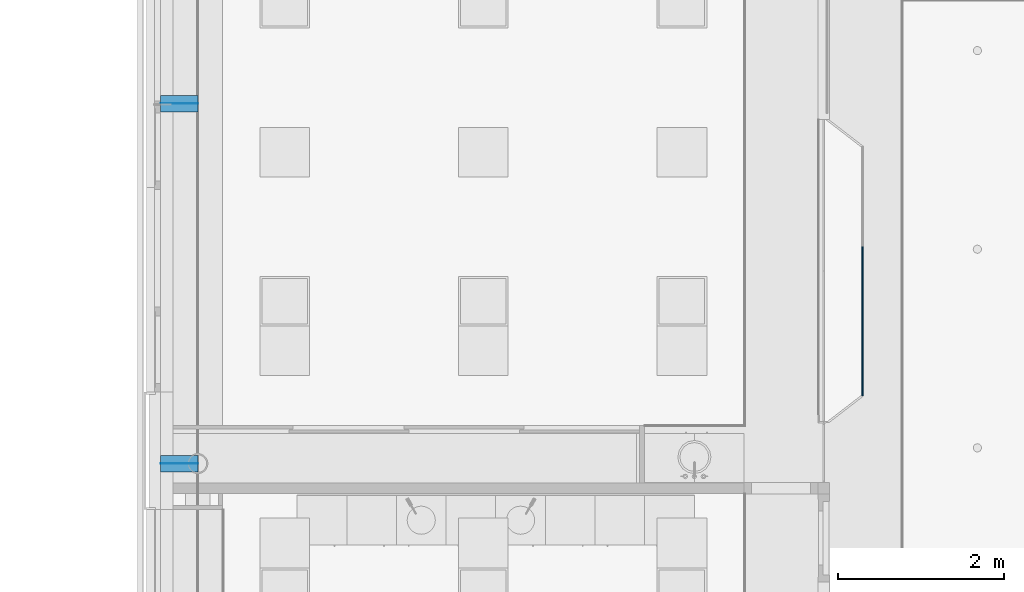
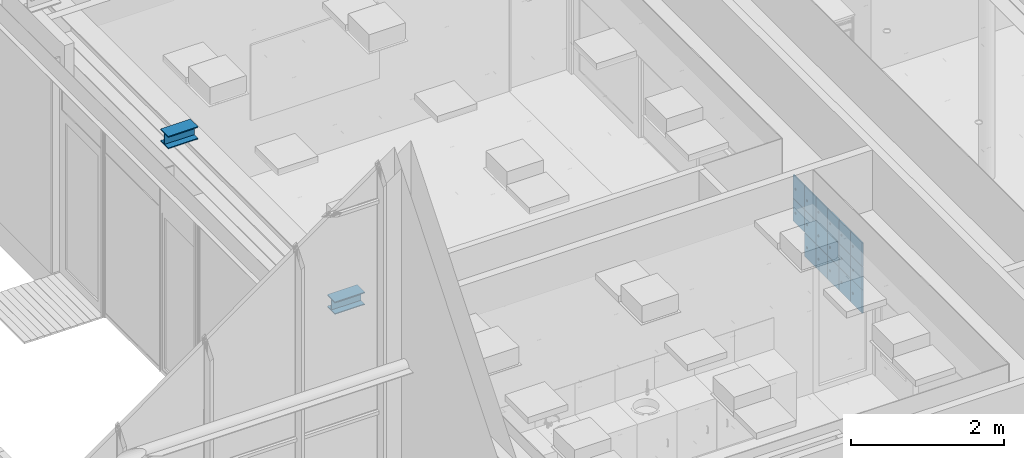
# One storey, part 130 of 347: 23 building element parts, 3 elements without a shape of their own.
"""IFC2X3 building model written with IfcOpenShell, lengths in millimetres."""

from ifc_helpers import new_model, entity, si_unit, converted_unit, derived_unit, money_unit, direction, frame, origin_with_axes, place, context, subcontext, project, spatial, faceted_brep, material, type_object, element, aggregate, save


model = new_model("IFC2X3")

# Units and contexts
model_context = context("Model", 3, precision=0.01, world=origin_with_axes(), true_north=direction((0.0, 1.0)))
plan_context = context("Plan", 3, precision=0.01, world=origin_with_axes(), true_north=direction((0.0, 1.0)))
body_context = subcontext(model_context, "Body", "Model", "MODEL_VIEW")
ifc_project = project(units=[si_unit("LENGTHUNIT", "METRE", prefix="MILLI"), si_unit("AREAUNIT", "SQUARE_METRE"), si_unit("VOLUMEUNIT", "CUBIC_METRE"), converted_unit("PLANEANGLEUNIT", "DEGREE", entity("IfcPlaneAngleMeasure", 0.0174532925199), si_unit("PLANEANGLEUNIT", "RADIAN"), dimensions=[0, 0, 0, 0, 0, 0, 0]), money_unit("EUR"), converted_unit("TIMEUNIT", "Year", entity("IfcTimeMeasure", 31556926.0), si_unit("TIMEUNIT", "SECOND"), dimensions=[0, 0, 1, 0, 0, 0, 0]), si_unit("MASSUNIT", "GRAM", prefix="KILO"), si_unit("THERMODYNAMICTEMPERATUREUNIT", "DEGREE_CELSIUS"), si_unit("LUMINOUSINTENSITYUNIT", "LUMEN"), si_unit("ENERGYUNIT", "JOULE", prefix="MEGA"), derived_unit("THERMALCONDUCTANCEUNIT", [(si_unit("POWERUNIT", "WATT"), 1), (si_unit("LENGTHUNIT", "METRE"), -1), (si_unit("THERMODYNAMICTEMPERATUREUNIT", "KELVIN"), -1)]), derived_unit("SPECIFICHEATCAPACITYUNIT", [(si_unit("ENERGYUNIT", "JOULE"), 1), (si_unit("MASSUNIT", "GRAM", prefix="KILO"), -1), (si_unit("THERMODYNAMICTEMPERATUREUNIT", "KELVIN"), -1)]), derived_unit("MASSDENSITYUNIT", [(si_unit("MASSUNIT", "GRAM", prefix="KILO"), 1), (si_unit("VOLUMEUNIT", "CUBIC_METRE"), -1)])], contexts=[model_context, plan_context])

# Site, building, storey
site_placement = place(None, origin_with_axes())
site = spatial("IfcSite", under=ifc_project, at=site_placement, Name="Site", CompositionType="ELEMENT")
building_placement = place(site_placement, origin_with_axes())
building = spatial("IfcBuilding", under=site, at=building_placement, Name="Naam gebouw", CompositionType="ELEMENT")
storey_placement = place(building_placement, origin_with_axes())
storey = spatial("IfcBuildingStorey", under=building, at=storey_placement, Name="begane grond", CompositionType="ELEMENT", Elevation=0.0)

# Beam, building element parts
beam_type_1 = type_object("IfcBeamType", Name="28 HEB200 200 x 200", PredefinedType="BEAM")
beam_1_placement = place(storey_placement, frame((24575.0, 20350.0, 3560.0), z_axis=(0.0, 0.0, 1.0), x_axis=(0.0, 1.0, 0.0)))
beam_1 = element("IfcBeam", 1, at=beam_1_placement, inside=storey, type_object=beam_type_1, Name="28_Balk-x", ObjectType="BEAM")
ifc_material_1 = material(Name="Metaal - Staal C")
building_element_part_1_placement = place(beam_1_placement, origin_with_axes())
building_element_part_1 = element("IfcBuildingElementPart", 2, at=building_element_part_1_placement, material=ifc_material_1, Name="Metaal - Staal C", context=body_context, shape_type="Brep", body=[
    faceted_brep([(-100.0, 450.0, 185.0), (-4.5, 450.0, 185.0), (-4.5, 0.0, 185.0), (-100.0, 0.0, 185.0), (-100.0, 450.0, 200.0), (100.0, 450.0, 200.0), (100.0, 450.0, 185.0), (4.5, 450.0, 185.0), (4.5, 0.0, 185.0), (100.0, 0.0, 185.0), (100.0, 0.0, 200.0), (-100.0, 0.0, 200.0)], [[[0, 1, 2, 3]], [[0, 4, 5, 6, 7, 1]], [[1, 7, 8, 2]], [[3, 2, 8, 9, 10, 11]], [[4, 0, 3, 11]], [[5, 4, 11, 10]], [[6, 5, 10, 9]], [[7, 6, 9, 8]]]),
])
building_element_part_2_placement = place(beam_1_placement, origin_with_axes())
building_element_part_2 = element("IfcBuildingElementPart", 3, at=building_element_part_2_placement, material=ifc_material_1, Name="Metaal - Staal C", context=body_context, shape_type="Brep", body=[
    faceted_brep([(-100.0, 450.0, 15.0), (-100.0, 450.0, 0.0), (-100.0, 0.0, 0.0), (-100.0, 0.0, 15.0), (-4.5, 450.0, 15.0), (4.5, 450.0, 15.0), (100.0, 450.0, 15.0), (100.0, 450.0, 0.0), (100.0, 0.0, 0.0), (100.0, 0.0, 15.0), (4.5, 0.0, 15.0), (-4.5, 0.0, 15.0)], [[[0, 1, 2, 3]], [[0, 4, 5, 6, 7, 1]], [[1, 7, 8, 2]], [[3, 2, 8, 9, 10, 11]], [[4, 0, 3, 11]], [[5, 4, 11, 10]], [[6, 5, 10, 9]], [[7, 6, 9, 8]]]),
])
building_element_part_3_placement = place(beam_1_placement, origin_with_axes())
building_element_part_3 = element("IfcBuildingElementPart", 4, at=building_element_part_3_placement, material=ifc_material_1, Name="Metaal - Staal C", context=body_context, shape_type="Brep", body=[
    faceted_brep([(-4.5, 450.0, 15.0), (4.5, 450.0, 15.0), (4.5, 0.0, 15.0), (-4.5, 0.0, 15.0), (-4.5, 450.0, 185.0), (4.5, 450.0, 185.0), (4.5, 0.0, 185.0), (-4.5, 0.0, 185.0)], [[[0, 1, 2, 3]], [[0, 4, 5, 1]], [[1, 5, 6, 2]], [[3, 2, 6, 7]], [[4, 0, 3, 7]], [[5, 4, 7, 6]]]),
])
aggregate(beam_1, [building_element_part_1, building_element_part_2, building_element_part_3])

beam_type_2 = type_object("IfcBeamType", Name="VI Garderobe 01 3012 x 1122", PredefinedType="BEAM")
beam_2_placement = place(storey_placement, frame((32618.0279766, 24180.5, 0.0), z_axis=(0.0, 0.0, 1.0), x_axis=(0.0, 1.0, 0.0)))
beam_2 = element("IfcBeam", 5, at=beam_2_placement, inside=storey, type_object=beam_type_2, Name="28_Balk-x", ObjectType="BEAM")
ifc_material_2 = material(Name="Hout - Lockers")
building_element_part_4_placement = place(beam_2_placement, origin_with_axes())
building_element_part_4 = element("IfcBuildingElementPart", 6, at=building_element_part_4_placement, material=ifc_material_2, Name="Hout - Lockers", context=body_context, shape_type="Brep", body=[
    faceted_brep([(-3012.0, 18.0, 1175.0), (-3012.0, 18.0, 802.0), (-3012.0, 0.0, 802.0), (-3012.0, 0.0, 1175.0), (-2709.0, 18.0, 1175.0), (-2709.0, 18.0, 802.0), (-2783.5623059, 18.0, 985.580134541), (-2787.0, 18.0, 975.0), (-2783.5623059, 18.0, 964.419865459), (-2774.5623059, 18.0, 957.880982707), (-2763.4376941, 18.0, 957.880982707), (-2754.4376941, 18.0, 964.419865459), (-2751.0, 18.0, 975.0), (-2754.4376941, 18.0, 985.580134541), (-2763.4376941, 18.0, 992.119017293), (-2774.5623059, 18.0, 992.119017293), (-2709.0, 0.0, 802.0), (-2709.0, 0.0, 1175.0), (-2783.5623059, 0.0, 985.580134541), (-2774.5623059, 0.0, 992.119017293), (-2763.4376941, 0.0, 992.119017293), (-2754.4376941, 0.0, 985.580134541), (-2751.0, 0.0, 975.0), (-2754.4376941, 0.0, 964.419865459), (-2763.4376941, 0.0, 957.880982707), (-2774.5623059, 0.0, 957.880982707), (-2783.5623059, 0.0, 964.419865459), (-2787.0, 0.0, 975.0)], [[[0, 1, 2, 3]], [[0, 4, 5, 1], [6, 7, 8, 9, 10, 11, 12, 13, 14, 15]], [[1, 5, 16, 2]], [[3, 2, 16, 17], [18, 19, 20, 21, 22, 23, 24, 25, 26, 27]], [[4, 0, 3, 17]], [[5, 4, 17, 16]], [[7, 6, 18, 27]], [[8, 7, 27, 26]], [[9, 8, 26, 25]], [[10, 9, 25, 24]], [[11, 10, 24, 23]], [[12, 11, 23, 22]], [[13, 12, 22, 21]], [[14, 13, 21, 20]], [[15, 14, 20, 19]], [[6, 15, 19, 18]]]),
])
building_element_part_5_placement = place(beam_2_placement, origin_with_axes())
building_element_part_5 = element("IfcBuildingElementPart", 7, at=building_element_part_5_placement, material=ifc_material_2, Name="Hout - Lockers", context=body_context, shape_type="Brep", body=[
    faceted_brep([(-3012.0, 18.0, 796.0), (-3012.0, 18.0, 432.0), (-3012.0, 0.0, 432.0), (-3012.0, 0.0, 796.0), (-2709.0, 18.0, 796.0), (-2709.0, 18.0, 432.0), (-2783.5623059, 18.0, 606.580134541), (-2787.0, 18.0, 596.0), (-2783.5623059, 18.0, 585.419865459), (-2774.5623059, 18.0, 578.880982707), (-2763.4376941, 18.0, 578.880982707), (-2754.4376941, 18.0, 585.419865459), (-2751.0, 18.0, 596.0), (-2754.4376941, 18.0, 606.580134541), (-2763.4376941, 18.0, 613.119017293), (-2774.5623059, 18.0, 613.119017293), (-2709.0, 0.0, 432.0), (-2709.0, 0.0, 796.0), (-2783.5623059, 0.0, 606.580134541), (-2774.5623059, 0.0, 613.119017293), (-2763.4376941, 0.0, 613.119017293), (-2754.4376941, 0.0, 606.580134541), (-2751.0, 0.0, 596.0), (-2754.4376941, 0.0, 585.419865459), (-2763.4376941, 0.0, 578.880982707), (-2774.5623059, 0.0, 578.880982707), (-2783.5623059, 0.0, 585.419865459), (-2787.0, 0.0, 596.0)], [[[0, 1, 2, 3]], [[0, 4, 5, 1], [6, 7, 8, 9, 10, 11, 12, 13, 14, 15]], [[1, 5, 16, 2]], [[3, 2, 16, 17], [18, 19, 20, 21, 22, 23, 24, 25, 26, 27]], [[4, 0, 3, 17]], [[5, 4, 17, 16]], [[7, 6, 18, 27]], [[8, 7, 27, 26]], [[9, 8, 26, 25]], [[10, 9, 25, 24]], [[11, 10, 24, 23]], [[12, 11, 23, 22]], [[13, 12, 22, 21]], [[14, 13, 21, 20]], [[15, 14, 20, 19]], [[6, 15, 19, 18]]]),
])
building_element_part_6_placement = place(beam_2_placement, origin_with_axes())
building_element_part_6 = element("IfcBuildingElementPart", 8, at=building_element_part_6_placement, material=ifc_material_2, Name="Hout - Lockers", context=body_context, shape_type="Brep", body=[
    faceted_brep([(-3012.0, 18.0, 426.0), (-3012.0, 18.0, 53.0), (-3012.0, 0.0, 53.0), (-3012.0, 0.0, 426.0), (-2709.0, 18.0, 426.0), (-2709.0, 18.0, 53.0), (-2782.1615884, 18.0, 236.58994507), (-2785.5992825, 18.0, 226.009810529), (-2782.1615884, 18.0, 215.429675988), (-2773.1615884, 18.0, 208.890793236), (-2762.0369766, 18.0, 208.890793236), (-2753.0369766, 18.0, 215.429675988), (-2749.5992825, 18.0, 226.009810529), (-2753.0369766, 18.0, 236.58994507), (-2762.0369766, 18.0, 243.128827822), (-2773.1615884, 18.0, 243.128827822), (-2709.0, 0.0, 53.0), (-2709.0, 0.0, 426.0), (-2782.1615884, 0.0, 236.58994507), (-2773.1615884, 0.0, 243.128827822), (-2762.0369766, 0.0, 243.128827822), (-2753.0369766, 0.0, 236.58994507), (-2749.5992825, 0.0, 226.009810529), (-2753.0369766, 0.0, 215.429675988), (-2762.0369766, 0.0, 208.890793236), (-2773.1615884, 0.0, 208.890793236), (-2782.1615884, 0.0, 215.429675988), (-2785.5992825, 0.0, 226.009810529)], [[[0, 1, 2, 3]], [[0, 4, 5, 1], [6, 7, 8, 9, 10, 11, 12, 13, 14, 15]], [[1, 5, 16, 2]], [[3, 2, 16, 17], [18, 19, 20, 21, 22, 23, 24, 25, 26, 27]], [[4, 0, 3, 17]], [[5, 4, 17, 16]], [[7, 6, 18, 27]], [[8, 7, 27, 26]], [[9, 8, 26, 25]], [[10, 9, 25, 24]], [[11, 10, 24, 23]], [[12, 11, 23, 22]], [[13, 12, 22, 21]], [[14, 13, 21, 20]], [[15, 14, 20, 19]], [[6, 15, 19, 18]]]),
])
building_element_part_7_placement = place(beam_2_placement, origin_with_axes())
building_element_part_7 = element("IfcBuildingElementPart", 9, at=building_element_part_7_placement, material=ifc_material_2, Name="Hout - Lockers", context=body_context, shape_type="Brep", body=[
    faceted_brep([(-2403.0, 18.0, 1175.0), (-2403.0, 18.0, 802.0), (-2403.0, 0.0, 802.0), (-2403.0, 0.0, 1175.0), (-2109.0, 18.0, 1175.0), (-2109.0, 18.0, 802.0), (-2183.5623059, 18.0, 985.580134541), (-2187.0, 18.0, 975.0), (-2183.5623059, 18.0, 964.419865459), (-2174.5623059, 18.0, 957.880982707), (-2163.4376941, 18.0, 957.880982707), (-2154.4376941, 18.0, 964.419865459), (-2151.0, 18.0, 975.0), (-2154.4376941, 18.0, 985.580134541), (-2163.4376941, 18.0, 992.119017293), (-2174.5623059, 18.0, 992.119017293), (-2109.0, 0.0, 802.0), (-2109.0, 0.0, 1175.0), (-2183.5623059, 0.0, 985.580134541), (-2174.5623059, 0.0, 992.119017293), (-2163.4376941, 0.0, 992.119017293), (-2154.4376941, 0.0, 985.580134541), (-2151.0, 0.0, 975.0), (-2154.4376941, 0.0, 964.419865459), (-2163.4376941, 0.0, 957.880982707), (-2174.5623059, 0.0, 957.880982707), (-2183.5623059, 0.0, 964.419865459), (-2187.0, 0.0, 975.0)], [[[0, 1, 2, 3]], [[0, 4, 5, 1], [6, 7, 8, 9, 10, 11, 12, 13, 14, 15]], [[1, 5, 16, 2]], [[3, 2, 16, 17], [18, 19, 20, 21, 22, 23, 24, 25, 26, 27]], [[4, 0, 3, 17]], [[5, 4, 17, 16]], [[7, 6, 18, 27]], [[8, 7, 27, 26]], [[9, 8, 26, 25]], [[10, 9, 25, 24]], [[11, 10, 24, 23]], [[12, 11, 23, 22]], [[13, 12, 22, 21]], [[14, 13, 21, 20]], [[15, 14, 20, 19]], [[6, 15, 19, 18]]]),
])
building_element_part_8_placement = place(beam_2_placement, origin_with_axes())
building_element_part_8 = element("IfcBuildingElementPart", 10, at=building_element_part_8_placement, material=ifc_material_2, Name="Hout - Lockers", context=body_context, shape_type="Brep", body=[
    faceted_brep([(-2403.0, 18.0, 796.0), (-2403.0, 18.0, 432.0), (-2403.0, 0.0, 432.0), (-2403.0, 0.0, 796.0), (-2109.0, 18.0, 796.0), (-2109.0, 18.0, 432.0), (-2183.5623059, 18.0, 606.580134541), (-2187.0, 18.0, 596.0), (-2183.5623059, 18.0, 585.419865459), (-2174.5623059, 18.0, 578.880982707), (-2163.4376941, 18.0, 578.880982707), (-2154.4376941, 18.0, 585.419865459), (-2151.0, 18.0, 596.0), (-2154.4376941, 18.0, 606.580134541), (-2163.4376941, 18.0, 613.119017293), (-2174.5623059, 18.0, 613.119017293), (-2109.0, 0.0, 432.0), (-2109.0, 0.0, 796.0), (-2183.5623059, 0.0, 606.580134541), (-2174.5623059, 0.0, 613.119017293), (-2163.4376941, 0.0, 613.119017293), (-2154.4376941, 0.0, 606.580134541), (-2151.0, 0.0, 596.0), (-2154.4376941, 0.0, 585.419865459), (-2163.4376941, 0.0, 578.880982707), (-2174.5623059, 0.0, 578.880982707), (-2183.5623059, 0.0, 585.419865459), (-2187.0, 0.0, 596.0)], [[[0, 1, 2, 3]], [[0, 4, 5, 1], [6, 7, 8, 9, 10, 11, 12, 13, 14, 15]], [[1, 5, 16, 2]], [[3, 2, 16, 17], [18, 19, 20, 21, 22, 23, 24, 25, 26, 27]], [[4, 0, 3, 17]], [[5, 4, 17, 16]], [[7, 6, 18, 27]], [[8, 7, 27, 26]], [[9, 8, 26, 25]], [[10, 9, 25, 24]], [[11, 10, 24, 23]], [[12, 11, 23, 22]], [[13, 12, 22, 21]], [[14, 13, 21, 20]], [[15, 14, 20, 19]], [[6, 15, 19, 18]]]),
])
building_element_part_9_placement = place(beam_2_placement, origin_with_axes())
building_element_part_9 = element("IfcBuildingElementPart", 11, at=building_element_part_9_placement, material=ifc_material_2, Name="Hout - Lockers", context=body_context, shape_type="Brep", body=[
    faceted_brep([(-2403.0, 18.0, 426.0), (-2403.0, 18.0, 53.0), (-2403.0, 0.0, 53.0), (-2403.0, 0.0, 426.0), (-2109.0, 18.0, 426.0), (-2109.0, 18.0, 53.0), (-2183.5623059, 18.0, 236.580134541), (-2187.0, 18.0, 226.0), (-2183.5623059, 18.0, 215.419865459), (-2174.5623059, 18.0, 208.880982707), (-2163.4376941, 18.0, 208.880982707), (-2154.4376941, 18.0, 215.419865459), (-2151.0, 18.0, 226.0), (-2154.4376941, 18.0, 236.580134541), (-2163.4376941, 18.0, 243.119017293), (-2174.5623059, 18.0, 243.119017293), (-2109.0, 0.0, 53.0), (-2109.0, 0.0, 426.0), (-2183.5623059, 0.0, 236.580134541), (-2174.5623059, 0.0, 243.119017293), (-2163.4376941, 0.0, 243.119017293), (-2154.4376941, 0.0, 236.580134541), (-2151.0, 0.0, 226.0), (-2154.4376941, 0.0, 215.419865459), (-2163.4376941, 0.0, 208.880982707), (-2174.5623059, 0.0, 208.880982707), (-2183.5623059, 0.0, 215.419865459), (-2187.0, 0.0, 226.0)], [[[0, 1, 2, 3]], [[0, 4, 5, 1], [6, 7, 8, 9, 10, 11, 12, 13, 14, 15]], [[1, 5, 16, 2]], [[3, 2, 16, 17], [18, 19, 20, 21, 22, 23, 24, 25, 26, 27]], [[4, 0, 3, 17]], [[5, 4, 17, 16]], [[7, 6, 18, 27]], [[8, 7, 27, 26]], [[9, 8, 26, 25]], [[10, 9, 25, 24]], [[11, 10, 24, 23]], [[12, 11, 23, 22]], [[13, 12, 22, 21]], [[14, 13, 21, 20]], [[15, 14, 20, 19]], [[6, 15, 19, 18]]]),
])
building_element_part_10_placement = place(beam_2_placement, origin_with_axes())
building_element_part_10 = element("IfcBuildingElementPart", 12, at=building_element_part_10_placement, material=ifc_material_2, Name="Hout - Lockers", context=body_context, shape_type="Brep", body=[
    faceted_brep([(-1503.0, 18.0, 1175.0), (-1503.0, 18.0, 802.0), (-1503.0, 0.0, 802.0), (-1503.0, 0.0, 1175.0), (-1209.0, 18.0, 1175.0), (-1209.0, 18.0, 802.0), (-1283.5623059, 18.0, 985.580134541), (-1287.0, 18.0, 975.0), (-1283.5623059, 18.0, 964.419865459), (-1274.5623059, 18.0, 957.880982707), (-1263.4376941, 18.0, 957.880982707), (-1254.4376941, 18.0, 964.419865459), (-1251.0, 18.0, 975.0), (-1254.4376941, 18.0, 985.580134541), (-1263.4376941, 18.0, 992.119017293), (-1274.5623059, 18.0, 992.119017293), (-1209.0, 0.0, 802.0), (-1209.0, 0.0, 1175.0), (-1283.5623059, 0.0, 985.580134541), (-1274.5623059, 0.0, 992.119017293), (-1263.4376941, 0.0, 992.119017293), (-1254.4376941, 0.0, 985.580134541), (-1251.0, 0.0, 975.0), (-1254.4376941, 0.0, 964.419865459), (-1263.4376941, 0.0, 957.880982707), (-1274.5623059, 0.0, 957.880982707), (-1283.5623059, 0.0, 964.419865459), (-1287.0, 0.0, 975.0)], [[[0, 1, 2, 3]], [[0, 4, 5, 1], [6, 7, 8, 9, 10, 11, 12, 13, 14, 15]], [[1, 5, 16, 2]], [[3, 2, 16, 17], [18, 19, 20, 21, 22, 23, 24, 25, 26, 27]], [[4, 0, 3, 17]], [[5, 4, 17, 16]], [[7, 6, 18, 27]], [[8, 7, 27, 26]], [[9, 8, 26, 25]], [[10, 9, 25, 24]], [[11, 10, 24, 23]], [[12, 11, 23, 22]], [[13, 12, 22, 21]], [[14, 13, 21, 20]], [[15, 14, 20, 19]], [[6, 15, 19, 18]]]),
])
building_element_part_11_placement = place(beam_2_placement, origin_with_axes())
building_element_part_11 = element("IfcBuildingElementPart", 13, at=building_element_part_11_placement, material=ifc_material_2, Name="Hout - Lockers", context=body_context, shape_type="Brep", body=[
    faceted_brep([(-1503.0, 18.0, 796.0), (-1503.0, 18.0, 432.0), (-1503.0, 0.0, 432.0), (-1503.0, 0.0, 796.0), (-1209.0, 18.0, 796.0), (-1209.0, 18.0, 432.0), (-1283.5623059, 18.0, 606.580134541), (-1287.0, 18.0, 596.0), (-1283.5623059, 18.0, 585.419865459), (-1274.5623059, 18.0, 578.880982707), (-1263.4376941, 18.0, 578.880982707), (-1254.4376941, 18.0, 585.419865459), (-1251.0, 18.0, 596.0), (-1254.4376941, 18.0, 606.580134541), (-1263.4376941, 18.0, 613.119017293), (-1274.5623059, 18.0, 613.119017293), (-1209.0, 0.0, 432.0), (-1209.0, 0.0, 796.0), (-1283.5623059, 0.0, 606.580134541), (-1274.5623059, 0.0, 613.119017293), (-1263.4376941, 0.0, 613.119017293), (-1254.4376941, 0.0, 606.580134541), (-1251.0, 0.0, 596.0), (-1254.4376941, 0.0, 585.419865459), (-1263.4376941, 0.0, 578.880982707), (-1274.5623059, 0.0, 578.880982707), (-1283.5623059, 0.0, 585.419865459), (-1287.0, 0.0, 596.0)], [[[0, 1, 2, 3]], [[0, 4, 5, 1], [6, 7, 8, 9, 10, 11, 12, 13, 14, 15]], [[1, 5, 16, 2]], [[3, 2, 16, 17], [18, 19, 20, 21, 22, 23, 24, 25, 26, 27]], [[4, 0, 3, 17]], [[5, 4, 17, 16]], [[7, 6, 18, 27]], [[8, 7, 27, 26]], [[9, 8, 26, 25]], [[10, 9, 25, 24]], [[11, 10, 24, 23]], [[12, 11, 23, 22]], [[13, 12, 22, 21]], [[14, 13, 21, 20]], [[15, 14, 20, 19]], [[6, 15, 19, 18]]]),
])
building_element_part_12_placement = place(beam_2_placement, origin_with_axes())
building_element_part_12 = element("IfcBuildingElementPart", 14, at=building_element_part_12_placement, material=ifc_material_2, Name="Hout - Lockers", context=body_context, shape_type="Brep", body=[
    faceted_brep([(-2103.0, 18.0, 1175.0), (-2103.0, 18.0, 802.0), (-2103.0, 0.0, 802.0), (-2103.0, 0.0, 1175.0), (-1809.0, 18.0, 1175.0), (-1809.0, 18.0, 802.0), (-1883.5623059, 18.0, 985.580134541), (-1887.0, 18.0, 975.0), (-1883.5623059, 18.0, 964.419865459), (-1874.5623059, 18.0, 957.880982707), (-1863.4376941, 18.0, 957.880982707), (-1854.4376941, 18.0, 964.419865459), (-1851.0, 18.0, 975.0), (-1854.4376941, 18.0, 985.580134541), (-1863.4376941, 18.0, 992.119017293), (-1874.5623059, 18.0, 992.119017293), (-1809.0, 0.0, 802.0), (-1809.0, 0.0, 1175.0), (-1883.5623059, 0.0, 985.580134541), (-1874.5623059, 0.0, 992.119017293), (-1863.4376941, 0.0, 992.119017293), (-1854.4376941, 0.0, 985.580134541), (-1851.0, 0.0, 975.0), (-1854.4376941, 0.0, 964.419865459), (-1863.4376941, 0.0, 957.880982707), (-1874.5623059, 0.0, 957.880982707), (-1883.5623059, 0.0, 964.419865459), (-1887.0, 0.0, 975.0)], [[[0, 1, 2, 3]], [[0, 4, 5, 1], [6, 7, 8, 9, 10, 11, 12, 13, 14, 15]], [[1, 5, 16, 2]], [[3, 2, 16, 17], [18, 19, 20, 21, 22, 23, 24, 25, 26, 27]], [[4, 0, 3, 17]], [[5, 4, 17, 16]], [[7, 6, 18, 27]], [[8, 7, 27, 26]], [[9, 8, 26, 25]], [[10, 9, 25, 24]], [[11, 10, 24, 23]], [[12, 11, 23, 22]], [[13, 12, 22, 21]], [[14, 13, 21, 20]], [[15, 14, 20, 19]], [[6, 15, 19, 18]]]),
])
building_element_part_13_placement = place(beam_2_placement, origin_with_axes())
building_element_part_13 = element("IfcBuildingElementPart", 15, at=building_element_part_13_placement, material=ifc_material_2, Name="Hout - Lockers", context=body_context, shape_type="Brep", body=[
    faceted_brep([(-2103.0, 18.0, 796.0), (-2103.0, 18.0, 432.0), (-2103.0, 0.0, 432.0), (-2103.0, 0.0, 796.0), (-1809.0, 18.0, 796.0), (-1809.0, 18.0, 432.0), (-1883.5623059, 18.0, 606.580134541), (-1887.0, 18.0, 596.0), (-1883.5623059, 18.0, 585.419865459), (-1874.5623059, 18.0, 578.880982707), (-1863.4376941, 18.0, 578.880982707), (-1854.4376941, 18.0, 585.419865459), (-1851.0, 18.0, 596.0), (-1854.4376941, 18.0, 606.580134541), (-1863.4376941, 18.0, 613.119017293), (-1874.5623059, 18.0, 613.119017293), (-1809.0, 0.0, 432.0), (-1809.0, 0.0, 796.0), (-1883.5623059, 0.0, 606.580134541), (-1874.5623059, 0.0, 613.119017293), (-1863.4376941, 0.0, 613.119017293), (-1854.4376941, 0.0, 606.580134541), (-1851.0, 0.0, 596.0), (-1854.4376941, 0.0, 585.419865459), (-1863.4376941, 0.0, 578.880982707), (-1874.5623059, 0.0, 578.880982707), (-1883.5623059, 0.0, 585.419865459), (-1887.0, 0.0, 596.0)], [[[0, 1, 2, 3]], [[0, 4, 5, 1], [6, 7, 8, 9, 10, 11, 12, 13, 14, 15]], [[1, 5, 16, 2]], [[3, 2, 16, 17], [18, 19, 20, 21, 22, 23, 24, 25, 26, 27]], [[4, 0, 3, 17]], [[5, 4, 17, 16]], [[7, 6, 18, 27]], [[8, 7, 27, 26]], [[9, 8, 26, 25]], [[10, 9, 25, 24]], [[11, 10, 24, 23]], [[12, 11, 23, 22]], [[13, 12, 22, 21]], [[14, 13, 21, 20]], [[15, 14, 20, 19]], [[6, 15, 19, 18]]]),
])
building_element_part_14_placement = place(beam_2_placement, origin_with_axes())
building_element_part_14 = element("IfcBuildingElementPart", 16, at=building_element_part_14_placement, material=ifc_material_2, Name="Hout - Lockers", context=body_context, shape_type="Brep", body=[
    faceted_brep([(-2103.0, 18.0, 426.0), (-2103.0, 18.0, 53.0), (-2103.0, 0.0, 53.0), (-2103.0, 0.0, 426.0), (-1809.0, 18.0, 426.0), (-1809.0, 18.0, 53.0), (-1883.5623059, 18.0, 236.580134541), (-1887.0, 18.0, 226.0), (-1883.5623059, 18.0, 215.419865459), (-1874.5623059, 18.0, 208.880982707), (-1863.4376941, 18.0, 208.880982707), (-1854.4376941, 18.0, 215.419865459), (-1851.0, 18.0, 226.0), (-1854.4376941, 18.0, 236.580134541), (-1863.4376941, 18.0, 243.119017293), (-1874.5623059, 18.0, 243.119017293), (-1809.0, 0.0, 53.0), (-1809.0, 0.0, 426.0), (-1883.5623059, 0.0, 236.580134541), (-1874.5623059, 0.0, 243.119017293), (-1863.4376941, 0.0, 243.119017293), (-1854.4376941, 0.0, 236.580134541), (-1851.0, 0.0, 226.0), (-1854.4376941, 0.0, 215.419865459), (-1863.4376941, 0.0, 208.880982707), (-1874.5623059, 0.0, 208.880982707), (-1883.5623059, 0.0, 215.419865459), (-1887.0, 0.0, 226.0)], [[[0, 1, 2, 3]], [[0, 4, 5, 1], [6, 7, 8, 9, 10, 11, 12, 13, 14, 15]], [[1, 5, 16, 2]], [[3, 2, 16, 17], [18, 19, 20, 21, 22, 23, 24, 25, 26, 27]], [[4, 0, 3, 17]], [[5, 4, 17, 16]], [[7, 6, 18, 27]], [[8, 7, 27, 26]], [[9, 8, 26, 25]], [[10, 9, 25, 24]], [[11, 10, 24, 23]], [[12, 11, 23, 22]], [[13, 12, 22, 21]], [[14, 13, 21, 20]], [[15, 14, 20, 19]], [[6, 15, 19, 18]]]),
])
building_element_part_15_placement = place(beam_2_placement, origin_with_axes())
building_element_part_15 = element("IfcBuildingElementPart", 17, at=building_element_part_15_placement, material=ifc_material_2, Name="Hout - Lockers", context=body_context, shape_type="Brep", body=[
    faceted_brep([(-1803.0, 18.0, 1175.0), (-1803.0, 18.0, 802.0), (-1803.0, 0.0, 802.0), (-1803.0, 0.0, 1175.0), (-1509.0, 18.0, 1175.0), (-1509.0, 18.0, 802.0), (-1583.5623059, 18.0, 985.580134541), (-1587.0, 18.0, 975.0), (-1583.5623059, 18.0, 964.419865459), (-1574.5623059, 18.0, 957.880982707), (-1563.4376941, 18.0, 957.880982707), (-1554.4376941, 18.0, 964.419865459), (-1551.0, 18.0, 975.0), (-1554.4376941, 18.0, 985.580134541), (-1563.4376941, 18.0, 992.119017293), (-1574.5623059, 18.0, 992.119017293), (-1509.0, 0.0, 802.0), (-1509.0, 0.0, 1175.0), (-1583.5623059, 0.0, 985.580134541), (-1574.5623059, 0.0, 992.119017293), (-1563.4376941, 0.0, 992.119017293), (-1554.4376941, 0.0, 985.580134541), (-1551.0, 0.0, 975.0), (-1554.4376941, 0.0, 964.419865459), (-1563.4376941, 0.0, 957.880982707), (-1574.5623059, 0.0, 957.880982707), (-1583.5623059, 0.0, 964.419865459), (-1587.0, 0.0, 975.0)], [[[0, 1, 2, 3]], [[0, 4, 5, 1], [6, 7, 8, 9, 10, 11, 12, 13, 14, 15]], [[1, 5, 16, 2]], [[3, 2, 16, 17], [18, 19, 20, 21, 22, 23, 24, 25, 26, 27]], [[4, 0, 3, 17]], [[5, 4, 17, 16]], [[7, 6, 18, 27]], [[8, 7, 27, 26]], [[9, 8, 26, 25]], [[10, 9, 25, 24]], [[11, 10, 24, 23]], [[12, 11, 23, 22]], [[13, 12, 22, 21]], [[14, 13, 21, 20]], [[15, 14, 20, 19]], [[6, 15, 19, 18]]]),
])
building_element_part_16_placement = place(beam_2_placement, origin_with_axes())
building_element_part_16 = element("IfcBuildingElementPart", 18, at=building_element_part_16_placement, material=ifc_material_2, Name="Hout - Lockers", context=body_context, shape_type="Brep", body=[
    faceted_brep([(-1803.0, 18.0, 796.0), (-1803.0, 18.0, 432.0), (-1803.0, 0.0, 432.0), (-1803.0, 0.0, 796.0), (-1509.0, 18.0, 796.0), (-1509.0, 18.0, 432.0), (-1583.5623059, 18.0, 606.580134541), (-1587.0, 18.0, 596.0), (-1583.5623059, 18.0, 585.419865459), (-1574.5623059, 18.0, 578.880982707), (-1563.4376941, 18.0, 578.880982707), (-1554.4376941, 18.0, 585.419865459), (-1551.0, 18.0, 596.0), (-1554.4376941, 18.0, 606.580134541), (-1563.4376941, 18.0, 613.119017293), (-1574.5623059, 18.0, 613.119017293), (-1509.0, 0.0, 432.0), (-1509.0, 0.0, 796.0), (-1583.5623059, 0.0, 606.580134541), (-1574.5623059, 0.0, 613.119017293), (-1563.4376941, 0.0, 613.119017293), (-1554.4376941, 0.0, 606.580134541), (-1551.0, 0.0, 596.0), (-1554.4376941, 0.0, 585.419865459), (-1563.4376941, 0.0, 578.880982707), (-1574.5623059, 0.0, 578.880982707), (-1583.5623059, 0.0, 585.419865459), (-1587.0, 0.0, 596.0)], [[[0, 1, 2, 3]], [[0, 4, 5, 1], [6, 7, 8, 9, 10, 11, 12, 13, 14, 15]], [[1, 5, 16, 2]], [[3, 2, 16, 17], [18, 19, 20, 21, 22, 23, 24, 25, 26, 27]], [[4, 0, 3, 17]], [[5, 4, 17, 16]], [[7, 6, 18, 27]], [[8, 7, 27, 26]], [[9, 8, 26, 25]], [[10, 9, 25, 24]], [[11, 10, 24, 23]], [[12, 11, 23, 22]], [[13, 12, 22, 21]], [[14, 13, 21, 20]], [[15, 14, 20, 19]], [[6, 15, 19, 18]]]),
])
building_element_part_17_placement = place(beam_2_placement, origin_with_axes())
building_element_part_17 = element("IfcBuildingElementPart", 19, at=building_element_part_17_placement, material=ifc_material_2, Name="Hout - Lockers", context=body_context, shape_type="Brep", body=[
    faceted_brep([(-1803.0, 18.0, 426.0), (-1803.0, 18.0, 53.0), (-1803.0, 0.0, 53.0), (-1803.0, 0.0, 426.0), (-1509.0, 18.0, 426.0), (-1509.0, 18.0, 53.0), (-1583.5623059, 18.0, 236.580134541), (-1587.0, 18.0, 226.0), (-1583.5623059, 18.0, 215.419865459), (-1574.5623059, 18.0, 208.880982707), (-1563.4376941, 18.0, 208.880982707), (-1554.4376941, 18.0, 215.419865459), (-1551.0, 18.0, 226.0), (-1554.4376941, 18.0, 236.580134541), (-1563.4376941, 18.0, 243.119017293), (-1574.5623059, 18.0, 243.119017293), (-1509.0, 0.0, 53.0), (-1509.0, 0.0, 426.0), (-1583.5623059, 0.0, 236.580134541), (-1574.5623059, 0.0, 243.119017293), (-1563.4376941, 0.0, 243.119017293), (-1554.4376941, 0.0, 236.580134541), (-1551.0, 0.0, 226.0), (-1554.4376941, 0.0, 215.419865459), (-1563.4376941, 0.0, 208.880982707), (-1574.5623059, 0.0, 208.880982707), (-1583.5623059, 0.0, 215.419865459), (-1587.0, 0.0, 226.0)], [[[0, 1, 2, 3]], [[0, 4, 5, 1], [6, 7, 8, 9, 10, 11, 12, 13, 14, 15]], [[1, 5, 16, 2]], [[3, 2, 16, 17], [18, 19, 20, 21, 22, 23, 24, 25, 26, 27]], [[4, 0, 3, 17]], [[5, 4, 17, 16]], [[7, 6, 18, 27]], [[8, 7, 27, 26]], [[9, 8, 26, 25]], [[10, 9, 25, 24]], [[11, 10, 24, 23]], [[12, 11, 23, 22]], [[13, 12, 22, 21]], [[14, 13, 21, 20]], [[15, 14, 20, 19]], [[6, 15, 19, 18]]]),
])
building_element_part_18_placement = place(beam_2_placement, origin_with_axes())
building_element_part_18 = element("IfcBuildingElementPart", 20, at=building_element_part_18_placement, material=ifc_material_2, Name="Hout - Lockers", context=body_context, shape_type="Brep", body=[
    faceted_brep([(-2703.0, 18.0, 1175.0), (-2703.0, 18.0, 802.0), (-2703.0, 0.0, 802.0), (-2703.0, 0.0, 1175.0), (-2409.0, 18.0, 1175.0), (-2409.0, 18.0, 802.0), (-2483.5623059, 18.0, 985.580134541), (-2487.0, 18.0, 975.0), (-2483.5623059, 18.0, 964.419865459), (-2474.5623059, 18.0, 957.880982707), (-2463.4376941, 18.0, 957.880982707), (-2454.4376941, 18.0, 964.419865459), (-2451.0, 18.0, 975.0), (-2454.4376941, 18.0, 985.580134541), (-2463.4376941, 18.0, 992.119017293), (-2474.5623059, 18.0, 992.119017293), (-2409.0, 0.0, 802.0), (-2409.0, 0.0, 1175.0), (-2483.5623059, 0.0, 985.580134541), (-2474.5623059, 0.0, 992.119017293), (-2463.4376941, 0.0, 992.119017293), (-2454.4376941, 0.0, 985.580134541), (-2451.0, 0.0, 975.0), (-2454.4376941, 0.0, 964.419865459), (-2463.4376941, 0.0, 957.880982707), (-2474.5623059, 0.0, 957.880982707), (-2483.5623059, 0.0, 964.419865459), (-2487.0, 0.0, 975.0)], [[[0, 1, 2, 3]], [[0, 4, 5, 1], [6, 7, 8, 9, 10, 11, 12, 13, 14, 15]], [[1, 5, 16, 2]], [[3, 2, 16, 17], [18, 19, 20, 21, 22, 23, 24, 25, 26, 27]], [[4, 0, 3, 17]], [[5, 4, 17, 16]], [[7, 6, 18, 27]], [[8, 7, 27, 26]], [[9, 8, 26, 25]], [[10, 9, 25, 24]], [[11, 10, 24, 23]], [[12, 11, 23, 22]], [[13, 12, 22, 21]], [[14, 13, 21, 20]], [[15, 14, 20, 19]], [[6, 15, 19, 18]]]),
])
building_element_part_19_placement = place(beam_2_placement, origin_with_axes())
building_element_part_19 = element("IfcBuildingElementPart", 21, at=building_element_part_19_placement, material=ifc_material_2, Name="Hout - Lockers", context=body_context, shape_type="Brep", body=[
    faceted_brep([(-2703.0, 18.0, 796.0), (-2703.0, 18.0, 432.0), (-2703.0, 0.0, 432.0), (-2703.0, 0.0, 796.0), (-2409.0, 18.0, 796.0), (-2409.0, 18.0, 432.0), (-2483.5623059, 18.0, 606.580134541), (-2487.0, 18.0, 596.0), (-2483.5623059, 18.0, 585.419865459), (-2474.5623059, 18.0, 578.880982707), (-2463.4376941, 18.0, 578.880982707), (-2454.4376941, 18.0, 585.419865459), (-2451.0, 18.0, 596.0), (-2454.4376941, 18.0, 606.580134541), (-2463.4376941, 18.0, 613.119017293), (-2474.5623059, 18.0, 613.119017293), (-2409.0, 0.0, 432.0), (-2409.0, 0.0, 796.0), (-2483.5623059, 0.0, 606.580134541), (-2474.5623059, 0.0, 613.119017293), (-2463.4376941, 0.0, 613.119017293), (-2454.4376941, 0.0, 606.580134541), (-2451.0, 0.0, 596.0), (-2454.4376941, 0.0, 585.419865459), (-2463.4376941, 0.0, 578.880982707), (-2474.5623059, 0.0, 578.880982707), (-2483.5623059, 0.0, 585.419865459), (-2487.0, 0.0, 596.0)], [[[0, 1, 2, 3]], [[0, 4, 5, 1], [6, 7, 8, 9, 10, 11, 12, 13, 14, 15]], [[1, 5, 16, 2]], [[3, 2, 16, 17], [18, 19, 20, 21, 22, 23, 24, 25, 26, 27]], [[4, 0, 3, 17]], [[5, 4, 17, 16]], [[7, 6, 18, 27]], [[8, 7, 27, 26]], [[9, 8, 26, 25]], [[10, 9, 25, 24]], [[11, 10, 24, 23]], [[12, 11, 23, 22]], [[13, 12, 22, 21]], [[14, 13, 21, 20]], [[15, 14, 20, 19]], [[6, 15, 19, 18]]]),
])
building_element_part_20_placement = place(beam_2_placement, origin_with_axes())
building_element_part_20 = element("IfcBuildingElementPart", 22, at=building_element_part_20_placement, material=ifc_material_2, Name="Hout - Lockers", context=body_context, shape_type="Brep", body=[
    faceted_brep([(-2703.0, 18.0, 426.0), (-2703.0, 18.0, 53.0), (-2703.0, 0.0, 53.0), (-2703.0, 0.0, 426.0), (-2409.0, 18.0, 426.0), (-2409.0, 18.0, 53.0), (-2483.5623059, 18.0, 236.580134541), (-2487.0, 18.0, 226.0), (-2483.5623059, 18.0, 215.419865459), (-2474.5623059, 18.0, 208.880982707), (-2463.4376941, 18.0, 208.880982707), (-2454.4376941, 18.0, 215.419865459), (-2451.0, 18.0, 226.0), (-2454.4376941, 18.0, 236.580134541), (-2463.4376941, 18.0, 243.119017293), (-2474.5623059, 18.0, 243.119017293), (-2409.0, 0.0, 53.0), (-2409.0, 0.0, 426.0), (-2483.5623059, 0.0, 236.580134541), (-2474.5623059, 0.0, 243.119017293), (-2463.4376941, 0.0, 243.119017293), (-2454.4376941, 0.0, 236.580134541), (-2451.0, 0.0, 226.0), (-2454.4376941, 0.0, 215.419865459), (-2463.4376941, 0.0, 208.880982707), (-2474.5623059, 0.0, 208.880982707), (-2483.5623059, 0.0, 215.419865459), (-2487.0, 0.0, 226.0)], [[[0, 1, 2, 3]], [[0, 4, 5, 1], [6, 7, 8, 9, 10, 11, 12, 13, 14, 15]], [[1, 5, 16, 2]], [[3, 2, 16, 17], [18, 19, 20, 21, 22, 23, 24, 25, 26, 27]], [[4, 0, 3, 17]], [[5, 4, 17, 16]], [[7, 6, 18, 27]], [[8, 7, 27, 26]], [[9, 8, 26, 25]], [[10, 9, 25, 24]], [[11, 10, 24, 23]], [[12, 11, 23, 22]], [[13, 12, 22, 21]], [[14, 13, 21, 20]], [[15, 14, 20, 19]], [[6, 15, 19, 18]]]),
])
aggregate(beam_2, [building_element_part_4, building_element_part_5, building_element_part_6, building_element_part_7, building_element_part_8, building_element_part_9, building_element_part_10, building_element_part_11, building_element_part_12, building_element_part_13, building_element_part_14, building_element_part_15, building_element_part_16, building_element_part_17, building_element_part_18, building_element_part_19, building_element_part_20])

beam_3_placement = place(storey_placement, frame((24575.0, 24700.0, 3560.0), z_axis=(0.0, 0.0, 1.0), x_axis=(0.0, 1.0, 0.0)))
beam_3 = element("IfcBeam", 23, at=beam_3_placement, inside=storey, type_object=beam_type_1, Name="28_Balk-x", ObjectType="BEAM")
building_element_part_21_placement = place(beam_3_placement, origin_with_axes())
building_element_part_21 = element("IfcBuildingElementPart", 24, at=building_element_part_21_placement, material=ifc_material_1, Name="Metaal - Staal C", context=body_context, shape_type="Brep", body=[
    faceted_brep([(-100.0, 450.0, 185.0), (-4.5, 450.0, 185.0), (-4.5, 0.0, 185.0), (-100.0, 0.0, 185.0), (-100.0, 450.0, 200.0), (100.0, 450.0, 200.0), (100.0, 450.0, 185.0), (4.5, 450.0, 185.0), (4.5, 0.0, 185.0), (100.0, 0.0, 185.0), (100.0, 0.0, 200.0), (-100.0, 0.0, 200.0)], [[[0, 1, 2, 3]], [[0, 4, 5, 6, 7, 1]], [[1, 7, 8, 2]], [[3, 2, 8, 9, 10, 11]], [[4, 0, 3, 11]], [[5, 4, 11, 10]], [[6, 5, 10, 9]], [[7, 6, 9, 8]]]),
])
building_element_part_22_placement = place(beam_3_placement, origin_with_axes())
building_element_part_22 = element("IfcBuildingElementPart", 25, at=building_element_part_22_placement, material=ifc_material_1, Name="Metaal - Staal C", context=body_context, shape_type="Brep", body=[
    faceted_brep([(-100.0, 450.0, 15.0), (-100.0, 450.0, 0.0), (-100.0, 0.0, 0.0), (-100.0, 0.0, 15.0), (-4.5, 450.0, 15.0), (4.5, 450.0, 15.0), (100.0, 450.0, 15.0), (100.0, 450.0, 0.0), (100.0, 0.0, 0.0), (100.0, 0.0, 15.0), (4.5, 0.0, 15.0), (-4.5, 0.0, 15.0)], [[[0, 1, 2, 3]], [[0, 4, 5, 6, 7, 1]], [[1, 7, 8, 2]], [[3, 2, 8, 9, 10, 11]], [[4, 0, 3, 11]], [[5, 4, 11, 10]], [[6, 5, 10, 9]], [[7, 6, 9, 8]]]),
])
building_element_part_23_placement = place(beam_3_placement, origin_with_axes())
building_element_part_23 = element("IfcBuildingElementPart", 26, at=building_element_part_23_placement, material=ifc_material_1, Name="Metaal - Staal C", context=body_context, shape_type="Brep", body=[
    faceted_brep([(-4.5, 450.0, 15.0), (4.5, 450.0, 15.0), (4.5, 0.0, 15.0), (-4.5, 0.0, 15.0), (-4.5, 450.0, 185.0), (4.5, 450.0, 185.0), (4.5, 0.0, 185.0), (-4.5, 0.0, 185.0)], [[[0, 1, 2, 3]], [[0, 4, 5, 1]], [[1, 5, 6, 2]], [[3, 2, 6, 7]], [[4, 0, 3, 7]], [[5, 4, 7, 6]]]),
])
aggregate(beam_3, [building_element_part_21, building_element_part_22, building_element_part_23])

save(model, "model.ifc")
